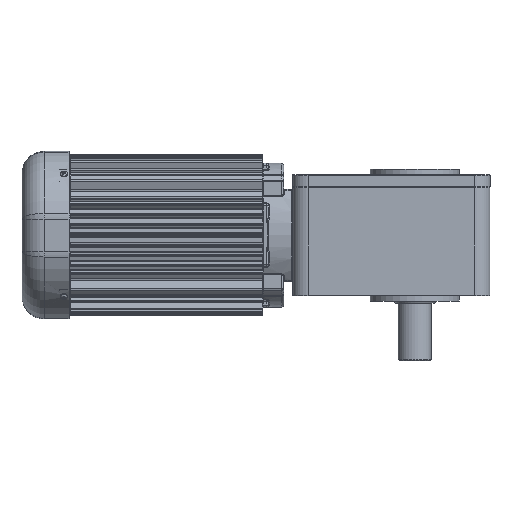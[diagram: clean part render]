
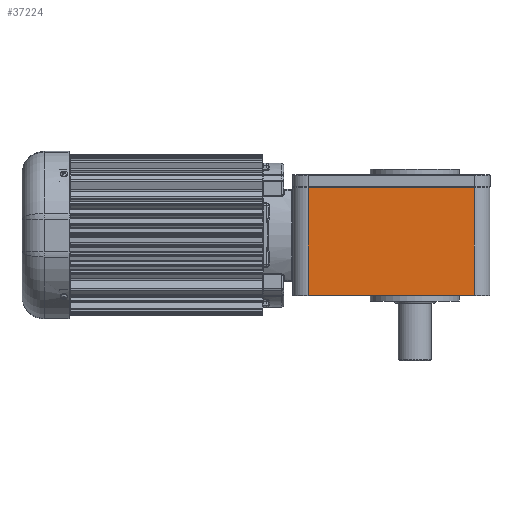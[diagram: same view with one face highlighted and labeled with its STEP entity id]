
A CAD part, front view. The second image highlights one B-rep face of the part: STEP entity #37224.
In plain terms, the highlighted planar face has unit normal (0, -1, 0).
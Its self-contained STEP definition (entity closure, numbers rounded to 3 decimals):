
#2743=LINE('',#66264,#5229);
#2772=LINE('',#66368,#5258);
#2783=LINE('',#66429,#5269);
#2784=LINE('',#66431,#5270);
#5229=VECTOR('',#50039,159.);
#5258=VECTOR('',#50166,159.);
#5269=VECTOR('',#50209,103.);
#5270=VECTOR('',#50212,103.);
#8511=FACE_OUTER_BOUND('',#10771,.T.);
#10771=EDGE_LOOP('',(#30219,#30220,#30221,#30222));
#16217=VERTEX_POINT('',#66258);
#16218=VERTEX_POINT('',#66262);
#16231=VERTEX_POINT('',#66310);
#16244=VERTEX_POINT('',#66364);
#20974=EDGE_CURVE('',#16218,#16217,#2743,.T.);
#21026=EDGE_CURVE('',#16231,#16244,#2772,.T.);
#21047=EDGE_CURVE('',#16217,#16231,#2783,.T.);
#21048=EDGE_CURVE('',#16218,#16244,#2784,.T.);
#30219=ORIENTED_EDGE('',*,*,#21026,.F.);
#30220=ORIENTED_EDGE('',*,*,#21047,.F.);
#30221=ORIENTED_EDGE('',*,*,#20974,.F.);
#30222=ORIENTED_EDGE('',*,*,#21048,.T.);
#33721=PLANE('',#41011);
#37224=ADVANCED_FACE('',(#8511),#33721,.T.);
#41011=AXIS2_PLACEMENT_3D('',#66430,#50210,#50211);
#50039=DIRECTION('',(1.,0.,0.));
#50166=DIRECTION('',(-1.,0.,0.));
#50209=DIRECTION('',(0.,0.,-1.));
#50210=DIRECTION('center_axis',(0.,-1.,0.));
#50211=DIRECTION('ref_axis',(0.,0.,-1.));
#50212=DIRECTION('',(0.,0.,-1.));
#66258=CARTESIAN_POINT('',(57.,-104.,45.5));
#66262=CARTESIAN_POINT('',(-102.,-104.,45.5));
#66264=CARTESIAN_POINT('',(-102.,-104.,45.5));
#66310=CARTESIAN_POINT('',(57.,-104.,-57.5));
#66364=CARTESIAN_POINT('',(-102.,-104.,-57.5));
#66368=CARTESIAN_POINT('',(57.,-104.,-57.5));
#66429=CARTESIAN_POINT('',(57.,-104.,45.5));
#66430=CARTESIAN_POINT('Origin',(57.,-104.,0.));
#66431=CARTESIAN_POINT('',(-102.,-104.,45.5));
